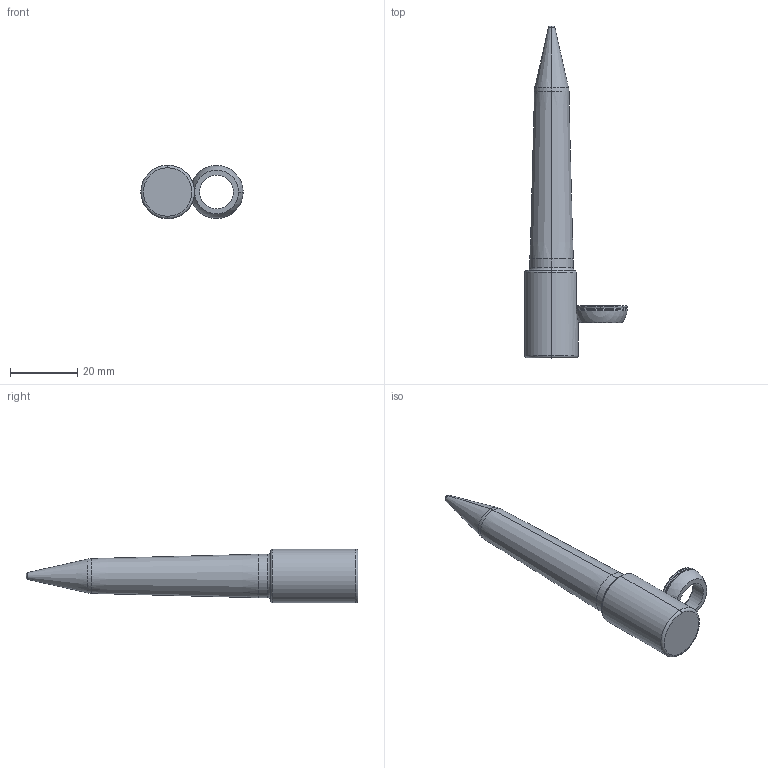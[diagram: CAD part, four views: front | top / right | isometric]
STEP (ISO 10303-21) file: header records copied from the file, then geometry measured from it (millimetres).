
FILE_DESCRIPTION (( 'STEP AP214' ), '1' );
FILE_NAME ('PA-T-13mm-2.5mm-50mm-3-A-F1.STEP', '2019-05-08T18:04:06', ( '' ), ( '' ), 'SwSTEP 2.0', 'SolidWorks 2017', '' );
FILE_SCHEMA (( 'AUTOMOTIVE_DESIGN' ));
Length unit declared in the file: inch
Products named in the file (3): PA-T-13mm-2.5mm-50mm-3-A-F1; SLRadiusWasher_RadiusWasher-M; SLPilot-PA-T-M_PA-T-13-2.5-50-3-A-F1
Assembly tree (2 placements, depth 2):
  PA-T-13mm-2.5mm-50mm-3-A-F1
    SLRadiusWasher_RadiusWasher-M
    SLPilot-PA-T-M_PA-T-13-2.5-50-3-A-F1
Bounding box: 30.55 x 99.04 x 16 mm (x, y, z)
Volume: 12170.6 mm3; surface area: 4472.1 mm2
Topology: 2 solids, 2 shells, 41 faces, 89 edges, 52 vertices
Faces by surface type: torus 15, cylinder 11, cone 6, plane 5, sphere 4
Entity records: 1320 total; most frequent: CARTESIAN_POINT 256, DIRECTION 242, ORIENTED_EDGE 178, AXIS2_PLACEMENT_3D 112, EDGE_CURVE 89, CIRCLE 66, VERTEX_POINT 52, EDGE_LOOP 43
